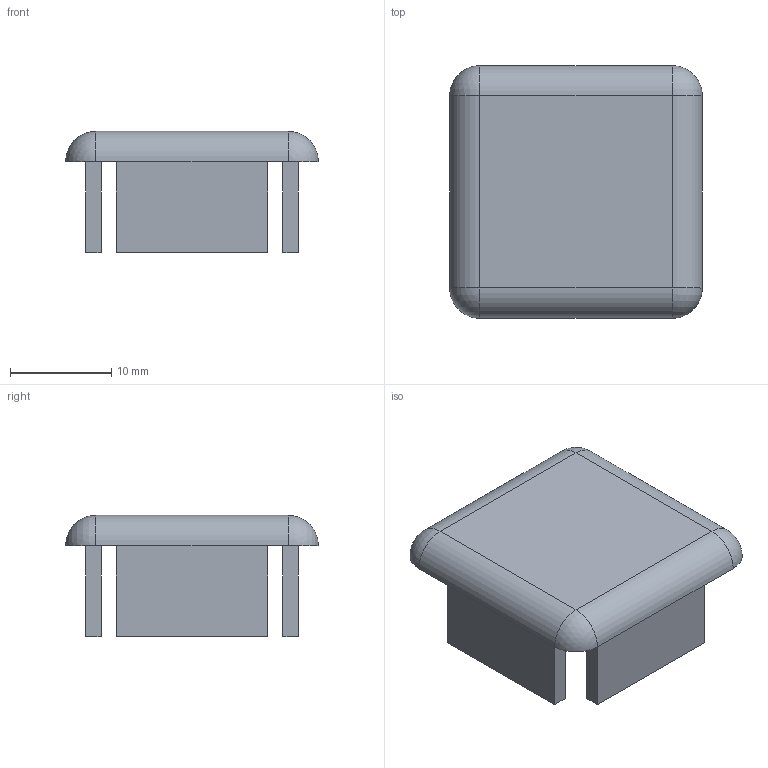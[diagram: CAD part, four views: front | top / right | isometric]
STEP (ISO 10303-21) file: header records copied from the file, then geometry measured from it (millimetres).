
FILE_DESCRIPTION (( 'STEP AP214' ), '1' );
FILE_NAME ('L21111.step', '2024-12-03T16:24:55', ( '' ), ( '' ), 'SwSTEP 2.0', 'SolidWorks 2023', '' );
FILE_SCHEMA (( 'AUTOMOTIVE_DESIGN' ));
Length unit declared in the file: millimetre
Products named in the file (1): L21111
Bounding box: 25 x 25 x 12 mm (x, y, z)
Volume: 2486.8 mm3; surface area: 2581 mm2
Topology: 1 solids, 1 shells, 30 faces, 72 edges, 44 vertices
Faces by surface type: plane 22, cylinder 4, sphere 4
Entity records: 855 total; most frequent: CARTESIAN_POINT 143, DIRECTION 142, ORIENTED_EDGE 136, EDGE_CURVE 68, VECTOR 56, LINE 56, VERTEX_POINT 44, AXIS2_PLACEMENT_3D 43
